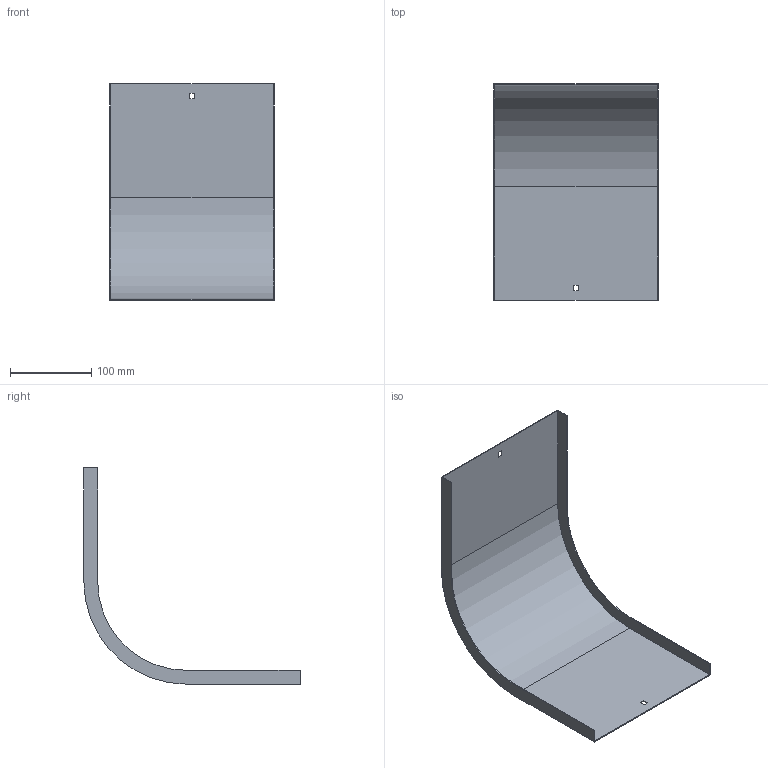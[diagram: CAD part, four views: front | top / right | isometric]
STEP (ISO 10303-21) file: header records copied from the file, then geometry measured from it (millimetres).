
FILE_DESCRIPTION (( 'STEP AP214' ), '1' );
FILE_NAME ('OD9_201.step', '2025-07-16T09:13:03', ( '' ), ( '' ), 'SwSTEP 2.0', 'SolidWorks 2023', '' );
FILE_SCHEMA (( 'AUTOMOTIVE_DESIGN' ));
Length unit declared in the file: millimetre
Products named in the file (1): OD9_201
Bounding box: 202 x 266 x 266 mm (x, y, z)
Volume: 111138.3 mm3; surface area: 223700.6 mm2
Topology: 1 solids, 1 shells, 26 faces, 72 edges, 48 vertices
Faces by surface type: plane 22, cylinder 4
Entity records: 855 total; most frequent: CARTESIAN_POINT 147, ORIENTED_EDGE 144, DIRECTION 134, EDGE_CURVE 72, VECTOR 64, LINE 64, VERTEX_POINT 48, AXIS2_PLACEMENT_3D 35
